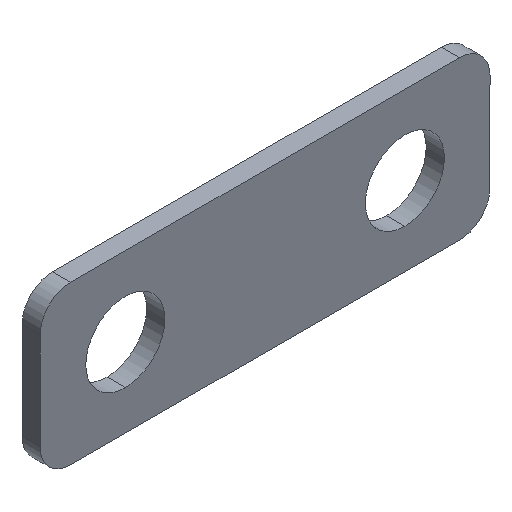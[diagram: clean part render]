
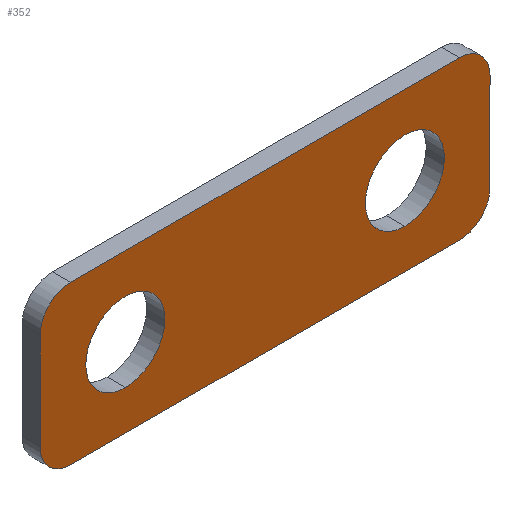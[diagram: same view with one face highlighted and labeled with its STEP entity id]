
A CAD part, isometric view. The second image highlights one B-rep face of the part: STEP entity #352.
In plain terms, the highlighted planar face has unit normal (0, -1, 0).
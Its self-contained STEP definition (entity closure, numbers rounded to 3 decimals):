
#4 = CARTESIAN_POINT ( 'NONE',  ( 37., 0., -21. ) ) ;
#6 = CARTESIAN_POINT ( 'NONE',  ( -32., 0., -26. ) ) ;
#7 = ORIENTED_EDGE ( 'NONE', *, *, #17, .T. ) ;
#10 = VERTEX_POINT ( 'NONE', #210 ) ;
#15 = CARTESIAN_POINT ( 'NONE',  ( -23., 0., -13. ) ) ;
#16 = EDGE_LOOP ( 'NONE', ( #7, #476 ) ) ;
#17 = EDGE_CURVE ( 'NONE', #55, #218, #208, .T. ) ;
#32 = VECTOR ( 'NONE', #443, 1000. ) ;
#39 = CIRCLE ( 'NONE', #57, 6.5 ) ;
#41 = CARTESIAN_POINT ( 'NONE',  ( -37., 0., 0. ) ) ;
#43 = CARTESIAN_POINT ( 'NONE',  ( 32., 0., -21. ) ) ;
#45 = DIRECTION ( 'NONE',  ( 0., -1., 0. ) ) ;
#48 = LINE ( 'NONE', #450, #267 ) ;
#51 = VERTEX_POINT ( 'NONE', #104 ) ;
#53 = DIRECTION ( 'NONE',  ( 0., -1., 0. ) ) ;
#55 = VERTEX_POINT ( 'NONE', #64 ) ;
#56 = EDGE_CURVE ( 'NONE', #51, #360, #383, .T. ) ;
#57 = AXIS2_PLACEMENT_3D ( 'NONE', #15, #212, #369 ) ;
#64 = CARTESIAN_POINT ( 'NONE',  ( -23., 0., -19.5 ) ) ;
#77 = DIRECTION ( 'NONE',  ( 0., 0., -1. ) ) ;
#87 = ORIENTED_EDGE ( 'NONE', *, *, #259, .T. ) ;
#91 = ORIENTED_EDGE ( 'NONE', *, *, #468, .T. ) ;
#95 = DIRECTION ( 'NONE',  ( 0., 0., 1. ) ) ;
#104 = CARTESIAN_POINT ( 'NONE',  ( -32., 0., 0. ) ) ;
#115 = LINE ( 'NONE', #41, #32 ) ;
#116 = ORIENTED_EDGE ( 'NONE', *, *, #504, .T. ) ;
#117 = PLANE ( 'NONE',  #242 ) ;
#124 = ORIENTED_EDGE ( 'NONE', *, *, #56, .F. ) ;
#128 = AXIS2_PLACEMENT_3D ( 'NONE', #415, #176, #342 ) ;
#159 = VERTEX_POINT ( 'NONE', #228 ) ;
#160 = DIRECTION ( 'NONE',  ( 0., -1., 0. ) ) ;
#161 = CARTESIAN_POINT ( 'NONE',  ( 37., 0., 0. ) ) ;
#165 = VECTOR ( 'NONE', #234, 1000. ) ;
#169 = CARTESIAN_POINT ( 'NONE',  ( -23., 0., -13. ) ) ;
#176 = DIRECTION ( 'NONE',  ( 0., 1., 0. ) ) ;
#178 = CARTESIAN_POINT ( 'NONE',  ( 32., 0., -5. ) ) ;
#197 = CARTESIAN_POINT ( 'NONE',  ( -23., 0., -6.5 ) ) ;
#208 = CIRCLE ( 'NONE', #444, 6.5 ) ;
#209 = DIRECTION ( 'NONE',  ( -1., 0., 0. ) ) ;
#210 = CARTESIAN_POINT ( 'NONE',  ( 37., 0., -5. ) ) ;
#211 = ORIENTED_EDGE ( 'NONE', *, *, #221, .T. ) ;
#212 = DIRECTION ( 'NONE',  ( 0., 1., 0. ) ) ;
#216 = CIRCLE ( 'NONE', #394, 5. ) ;
#218 = VERTEX_POINT ( 'NONE', #197 ) ;
#220 = EDGE_CURVE ( 'NONE', #248, #338, #115, .T. ) ;
#221 = EDGE_CURVE ( 'NONE', #51, #338, #445, .T. ) ;
#228 = CARTESIAN_POINT ( 'NONE',  ( 23., 0., -19.5 ) ) ;
#234 = DIRECTION ( 'NONE',  ( 0., 0., -1. ) ) ;
#237 = CARTESIAN_POINT ( 'NONE',  ( 0., 0., 0. ) ) ;
#240 = DIRECTION ( 'NONE',  ( 0., -1., 0. ) ) ;
#242 = AXIS2_PLACEMENT_3D ( 'NONE', #237, #404, #525 ) ;
#248 = VERTEX_POINT ( 'NONE', #361 ) ;
#249 = CARTESIAN_POINT ( 'NONE',  ( 23., 0., -6.5 ) ) ;
#259 = EDGE_CURVE ( 'NONE', #248, #463, #216, .T. ) ;
#267 = VECTOR ( 'NONE', #209, 1000. ) ;
#276 = EDGE_CURVE ( 'NONE', #10, #498, #401, .T. ) ;
#278 = FACE_BOUND ( 'NONE', #449, .T. ) ;
#283 = CARTESIAN_POINT ( 'NONE',  ( -37., 0., -5. ) ) ;
#284 = VECTOR ( 'NONE', #388, 1000. ) ;
#286 = CARTESIAN_POINT ( 'NONE',  ( -32., 0., -21. ) ) ;
#290 = CIRCLE ( 'NONE', #128, 6.5 ) ;
#295 = DIRECTION ( 'NONE',  ( 0., 1., 0. ) ) ;
#301 = CIRCLE ( 'NONE', #322, 5. ) ;
#317 = ORIENTED_EDGE ( 'NONE', *, *, #276, .F. ) ;
#322 = AXIS2_PLACEMENT_3D ( 'NONE', #178, #53, #375 ) ;
#331 = AXIS2_PLACEMENT_3D ( 'NONE', #368, #160, #77 ) ;
#334 = DIRECTION ( 'NONE',  ( 0., 0., 1. ) ) ;
#338 = VERTEX_POINT ( 'NONE', #283 ) ;
#342 = DIRECTION ( 'NONE',  ( 0., 0., 1. ) ) ;
#352 = ADVANCED_FACE ( 'NONE', ( #364, #480, #278 ), #117, .T. ) ;
#356 = CIRCLE ( 'NONE', #419, 5. ) ;
#358 = EDGE_CURVE ( 'NONE', #159, #407, #403, .T. ) ;
#360 = VERTEX_POINT ( 'NONE', #413 ) ;
#361 = CARTESIAN_POINT ( 'NONE',  ( -37., 0., -21. ) ) ;
#364 = FACE_BOUND ( 'NONE', #16, .T. ) ;
#368 = CARTESIAN_POINT ( 'NONE',  ( -32., 0., -5. ) ) ;
#369 = DIRECTION ( 'NONE',  ( 0., 0., 1. ) ) ;
#370 = EDGE_CURVE ( 'NONE', #519, #463, #48, .T. ) ;
#375 = DIRECTION ( 'NONE',  ( 0., 0., -1. ) ) ;
#378 = ORIENTED_EDGE ( 'NONE', *, *, #370, .F. ) ;
#381 = EDGE_LOOP ( 'NONE', ( #378, #457, #317, #91, #124, #211, #437, #87 ) ) ;
#383 = LINE ( 'NONE', #467, #284 ) ;
#385 = EDGE_CURVE ( 'NONE', #218, #55, #39, .T. ) ;
#388 = DIRECTION ( 'NONE',  ( 1., 0., 0. ) ) ;
#393 = EDGE_CURVE ( 'NONE', #519, #498, #356, .T. ) ;
#394 = AXIS2_PLACEMENT_3D ( 'NONE', #286, #240, #521 ) ;
#399 = CARTESIAN_POINT ( 'NONE',  ( 23., 0., -13. ) ) ;
#401 = LINE ( 'NONE', #161, #165 ) ;
#403 = CIRCLE ( 'NONE', #496, 6.5 ) ;
#404 = DIRECTION ( 'NONE',  ( 0., -1., 0. ) ) ;
#407 = VERTEX_POINT ( 'NONE', #249 ) ;
#413 = CARTESIAN_POINT ( 'NONE',  ( 32., 0., 0. ) ) ;
#415 = CARTESIAN_POINT ( 'NONE',  ( 23., 0., -13. ) ) ;
#416 = ORIENTED_EDGE ( 'NONE', *, *, #358, .T. ) ;
#419 = AXIS2_PLACEMENT_3D ( 'NONE', #43, #45, #489 ) ;
#437 = ORIENTED_EDGE ( 'NONE', *, *, #220, .F. ) ;
#443 = DIRECTION ( 'NONE',  ( 0., 0., 1. ) ) ;
#444 = AXIS2_PLACEMENT_3D ( 'NONE', #169, #500, #334 ) ;
#445 = CIRCLE ( 'NONE', #331, 5. ) ;
#449 = EDGE_LOOP ( 'NONE', ( #416, #116 ) ) ;
#450 = CARTESIAN_POINT ( 'NONE',  ( -37., 0., -26. ) ) ;
#457 = ORIENTED_EDGE ( 'NONE', *, *, #393, .T. ) ;
#461 = CARTESIAN_POINT ( 'NONE',  ( 32., 0., -26. ) ) ;
#463 = VERTEX_POINT ( 'NONE', #6 ) ;
#467 = CARTESIAN_POINT ( 'NONE',  ( -37., 0., 0. ) ) ;
#468 = EDGE_CURVE ( 'NONE', #10, #360, #301, .T. ) ;
#476 = ORIENTED_EDGE ( 'NONE', *, *, #385, .T. ) ;
#480 = FACE_OUTER_BOUND ( 'NONE', #381, .T. ) ;
#489 = DIRECTION ( 'NONE',  ( 0., 0., -1. ) ) ;
#496 = AXIS2_PLACEMENT_3D ( 'NONE', #399, #295, #95 ) ;
#498 = VERTEX_POINT ( 'NONE', #4 ) ;
#500 = DIRECTION ( 'NONE',  ( 0., 1., 0. ) ) ;
#504 = EDGE_CURVE ( 'NONE', #407, #159, #290, .T. ) ;
#519 = VERTEX_POINT ( 'NONE', #461 ) ;
#521 = DIRECTION ( 'NONE',  ( 0., 0., -1. ) ) ;
#525 = DIRECTION ( 'NONE',  ( 0., 0., -1. ) ) ;
